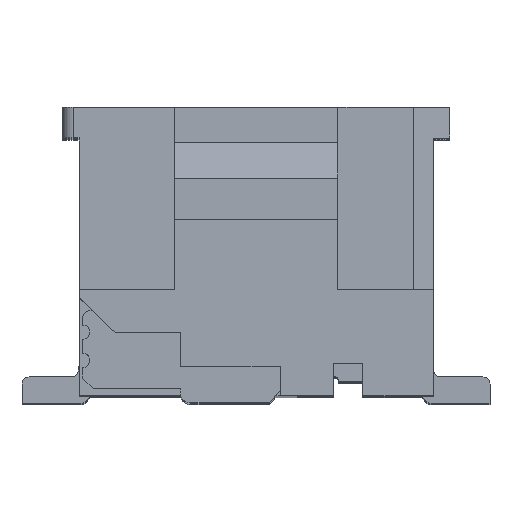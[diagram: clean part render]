
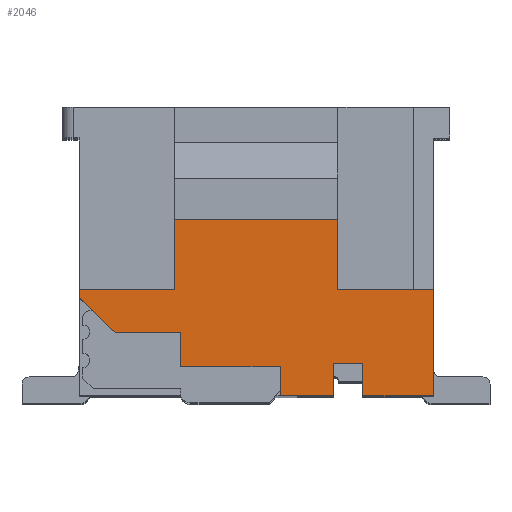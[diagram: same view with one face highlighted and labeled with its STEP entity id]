
A CAD part, top view. The second image highlights one B-rep face of the part: STEP entity #2046.
In plain terms, the highlighted planar face has unit normal (0, 0, 1).
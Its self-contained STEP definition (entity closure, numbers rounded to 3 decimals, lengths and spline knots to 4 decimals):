
#2046=ADVANCED_FACE('',(#5611),#4005,.F.);
#4005=PLANE('',#43483);
#5611=FACE_OUTER_BOUND('',#7641,.T.);
#7641=EDGE_LOOP('',(#11253,#11254,#11255,#11256,#11257,#11258,#11259,#11260,
#11261,#11262,#11263,#11264,#11265,#11266,#11267,#11268,#11269));
#11253=ORIENTED_EDGE('',*,*,#26959,.T.);
#11254=ORIENTED_EDGE('',*,*,#27299,.F.);
#11255=ORIENTED_EDGE('',*,*,#26366,.F.);
#11256=ORIENTED_EDGE('',*,*,#27302,.F.);
#11257=ORIENTED_EDGE('',*,*,#26949,.F.);
#11258=ORIENTED_EDGE('',*,*,#26947,.F.);
#11259=ORIENTED_EDGE('',*,*,#26945,.F.);
#11260=ORIENTED_EDGE('',*,*,#27210,.F.);
#11261=ORIENTED_EDGE('',*,*,#27341,.F.);
#11262=ORIENTED_EDGE('',*,*,#27214,.F.);
#11263=ORIENTED_EDGE('',*,*,#26943,.F.);
#11264=ORIENTED_EDGE('',*,*,#26940,.F.);
#11265=ORIENTED_EDGE('',*,*,#27340,.F.);
#11266=ORIENTED_EDGE('',*,*,#26289,.F.);
#11267=ORIENTED_EDGE('',*,*,#27342,.F.);
#11268=ORIENTED_EDGE('',*,*,#26952,.T.);
#11269=ORIENTED_EDGE('',*,*,#26933,.T.);
#22121=VERTEX_POINT('',#57641);
#22122=VERTEX_POINT('',#57643);
#22198=VERTEX_POINT('',#57796);
#22199=VERTEX_POINT('',#57798);
#22613=VERTEX_POINT('',#58943);
#22614=VERTEX_POINT('',#58945);
#22616=VERTEX_POINT('',#58951);
#22620=VERTEX_POINT('',#58958);
#22621=VERTEX_POINT('',#58962);
#22623=VERTEX_POINT('',#58968);
#22624=VERTEX_POINT('',#58970);
#22625=VERTEX_POINT('',#58974);
#22626=VERTEX_POINT('',#58978);
#22627=VERTEX_POINT('',#58984);
#22631=VERTEX_POINT('',#58998);
#22813=VERTEX_POINT('',#59512);
#22814=VERTEX_POINT('',#59516);
#26289=EDGE_CURVE('',#22121,#22122,#32615,.T.);
#26366=EDGE_CURVE('',#22198,#22199,#32692,.T.);
#26933=EDGE_CURVE('',#22614,#22613,#33118,.T.);
#26940=EDGE_CURVE('',#22620,#22616,#33125,.T.);
#26943=EDGE_CURVE('',#22616,#22621,#33128,.T.);
#26945=EDGE_CURVE('',#22623,#22624,#33130,.T.);
#26947=EDGE_CURVE('',#22624,#22625,#33132,.T.);
#26949=EDGE_CURVE('',#22625,#22626,#33134,.T.);
#26952=EDGE_CURVE('',#22627,#22614,#33137,.T.);
#26959=EDGE_CURVE('',#22613,#22631,#33144,.T.);
#27210=EDGE_CURVE('',#22813,#22623,#33347,.T.);
#27214=EDGE_CURVE('',#22621,#22814,#33351,.T.);
#27299=EDGE_CURVE('',#22199,#22631,#33434,.T.);
#27302=EDGE_CURVE('',#22626,#22198,#33437,.T.);
#27340=EDGE_CURVE('',#22122,#22620,#33475,.T.);
#27341=EDGE_CURVE('',#22814,#22813,#33476,.T.);
#27342=EDGE_CURVE('',#22627,#22121,#33477,.T.);
#32615=LINE('',#57642,#37827);
#32692=LINE('',#57797,#37904);
#33118=LINE('',#58944,#38330);
#33125=LINE('',#58959,#38337);
#33128=LINE('',#58965,#38340);
#33130=LINE('',#58969,#38342);
#33132=LINE('',#58973,#38344);
#33134=LINE('',#58977,#38346);
#33137=LINE('',#58983,#38349);
#33144=LINE('',#58997,#38356);
#33347=LINE('',#59513,#38559);
#33351=LINE('',#59521,#38563);
#33434=LINE('',#59685,#38646);
#33437=LINE('',#59689,#38649);
#33475=LINE('',#59754,#38687);
#33476=LINE('',#59756,#38688);
#33477=LINE('',#59757,#38689);
#37827=VECTOR('',#46155,1.);
#37904=VECTOR('',#46234,1.);
#38330=VECTOR('',#47272,1.);
#38337=VECTOR('',#47281,1.);
#38340=VECTOR('',#47286,1.);
#38342=VECTOR('',#47290,1.);
#38344=VECTOR('',#47294,1.);
#38346=VECTOR('',#47298,1.);
#38349=VECTOR('',#47305,1.);
#38356=VECTOR('',#47318,1.);
#38559=VECTOR('',#47757,1.);
#38563=VECTOR('',#47763,1.);
#38646=VECTOR('',#47902,1.);
#38649=VECTOR('',#47907,1.);
#38687=VECTOR('',#47993,1.);
#38688=VECTOR('',#47996,1.);
#38689=VECTOR('',#47997,1.);
#43483=AXIS2_PLACEMENT_3D('',#59758,#47998,#47999);
#46155=DIRECTION('',(0.,-1.,0.));
#46234=DIRECTION('',(0.,1.,0.));
#47272=DIRECTION('',(-1.,0.,0.));
#47281=DIRECTION('',(0.,1.,0.));
#47286=DIRECTION('',(-1.,0.,0.));
#47290=DIRECTION('',(-1.,0.,0.));
#47294=DIRECTION('',(0.,1.,0.));
#47298=DIRECTION('',(-1.,0.,0.));
#47305=DIRECTION('',(0.,1.,0.));
#47318=DIRECTION('',(0.,-1.,0.));
#47757=DIRECTION('',(0.,1.,0.));
#47763=DIRECTION('',(0.,-1.,0.));
#47902=DIRECTION('',(1.,0.,0.));
#47907=DIRECTION('',(-0.719,0.695,0.));
#47993=DIRECTION('',(-1.,0.,0.));
#47996=DIRECTION('',(-1.,0.,0.));
#47997=DIRECTION('',(1.,0.,0.));
#47998=DIRECTION('',(0.,0.,-1.));
#47999=DIRECTION('',(1.,0.,0.));
#57641=CARTESIAN_POINT('',(0.9894,-0.9149,7.2));
#57642=CARTESIAN_POINT('',(0.9894,1.2203,7.2));
#57643=CARTESIAN_POINT('',(0.9894,-2.4149,7.2));
#57796=CARTESIAN_POINT('',(-4.0106,-1.0349,7.2));
#57797=CARTESIAN_POINT('',(-4.0106,-2.4149,7.2));
#57798=CARTESIAN_POINT('',(-4.0106,-0.9149,7.2));
#58943=CARTESIAN_POINT('',(-2.6606,0.0751,7.2));
#58944=CARTESIAN_POINT('',(-2.6606,0.0751,7.2));
#58945=CARTESIAN_POINT('',(-0.3606,0.0751,7.2));
#58951=CARTESIAN_POINT('',(-0.0106,-1.9549,7.2));
#58958=CARTESIAN_POINT('',(-0.0106,-2.4149,7.2));
#58959=CARTESIAN_POINT('',(-0.0106,-2.4149,7.2));
#58962=CARTESIAN_POINT('',(-0.4206,-1.9549,7.2));
#58965=CARTESIAN_POINT('',(-0.0106,-1.9549,7.2));
#58968=CARTESIAN_POINT('',(-1.1732,-2.0049,7.2));
#58969=CARTESIAN_POINT('',(-2.5832,-2.0049,7.2));
#58970=CARTESIAN_POINT('',(-2.5832,-2.0049,7.2));
#58973=CARTESIAN_POINT('',(-2.5832,-1.5249,7.2));
#58974=CARTESIAN_POINT('',(-2.5832,-1.5249,7.2));
#58977=CARTESIAN_POINT('',(-3.5032,-1.5249,7.2));
#58978=CARTESIAN_POINT('',(-3.5032,-1.5249,7.2));
#58983=CARTESIAN_POINT('',(-0.3606,0.0751,7.2));
#58984=CARTESIAN_POINT('',(-0.3606,-0.9149,7.2));
#58997=CARTESIAN_POINT('',(-2.6606,0.0751,7.2));
#58998=CARTESIAN_POINT('',(-2.6606,-0.9149,7.2));
#59512=CARTESIAN_POINT('',(-1.1732,-2.4149,7.2));
#59513=CARTESIAN_POINT('',(-1.1732,-2.0049,7.2));
#59516=CARTESIAN_POINT('',(-0.4206,-2.4149,7.2));
#59521=CARTESIAN_POINT('',(-0.4206,-1.9549,7.2));
#59685=CARTESIAN_POINT('',(-5.2806,-0.9149,7.2));
#59689=CARTESIAN_POINT('',(-4.0106,-1.0349,7.2));
#59754=CARTESIAN_POINT('',(0.9894,-2.4149,7.2));
#59756=CARTESIAN_POINT('',(-0.4206,-2.4149,7.2));
#59757=CARTESIAN_POINT('',(-5.2806,-0.9149,7.2));
#59758=CARTESIAN_POINT('',(-5.2806,-0.9149,7.2));
